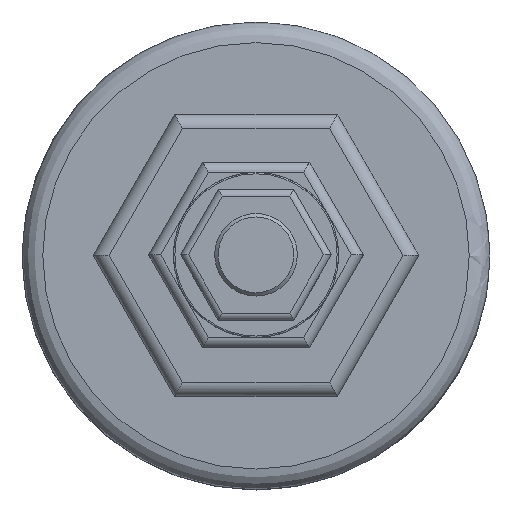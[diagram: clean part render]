
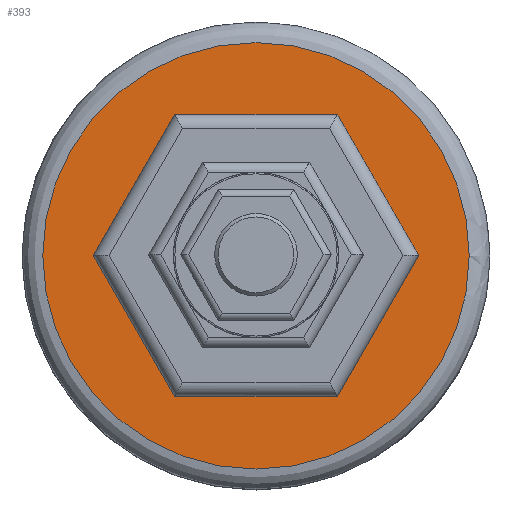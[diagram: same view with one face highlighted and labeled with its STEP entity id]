
A CAD part, top view. The second image highlights one B-rep face of the part: STEP entity #393.
In plain terms, the highlighted planar face has unit normal (0, 0, 1).
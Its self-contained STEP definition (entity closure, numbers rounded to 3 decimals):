
#368=CARTESIAN_POINT('',(1250.267,934.042,25.0));
#369=DIRECTION('',(0.0,0.0,1.0));
#370=DIRECTION('',(1.0,0.0,0.0));
#371=AXIS2_PLACEMENT_3D('',#368,#369,#370);
#372=PLANE('',#371);
#373=CARTESIAN_POINT('',(1322.067,974.842,25.0));
#374=VERTEX_POINT('',#373);
#375=CARTESIAN_POINT('',(1260.067,974.842,25.0));
#376=VERTEX_POINT('',#375);
#377=CARTESIAN_POINT('',(1291.067,974.842,25.0));
#378=DIRECTION('',(0.0,0.0,1.0));
#379=DIRECTION('',(1.0,0.0,0.0));
#380=AXIS2_PLACEMENT_3D('',#377,#378,#379);
#381=CIRCLE('',#380,31.0);
#382=EDGE_CURVE('',#374,#376,#381,.T.);
#383=ORIENTED_EDGE('',*,*,#382,.T.);
#384=CARTESIAN_POINT('',(1291.067,974.842,25.0));
#385=DIRECTION('',(0.0,0.0,1.0));
#386=DIRECTION('',(1.0,0.0,0.0));
#387=AXIS2_PLACEMENT_3D('',#384,#385,#386);
#388=CIRCLE('',#387,31.0);
#389=EDGE_CURVE('',#376,#374,#388,.T.);
#390=ORIENTED_EDGE('',*,*,#389,.T.);
#391=EDGE_LOOP('',(#383,#390));
#392=FACE_OUTER_BOUND('',#391,.T.);
#393=ADVANCED_FACE('',(#392),#372,.T.);
